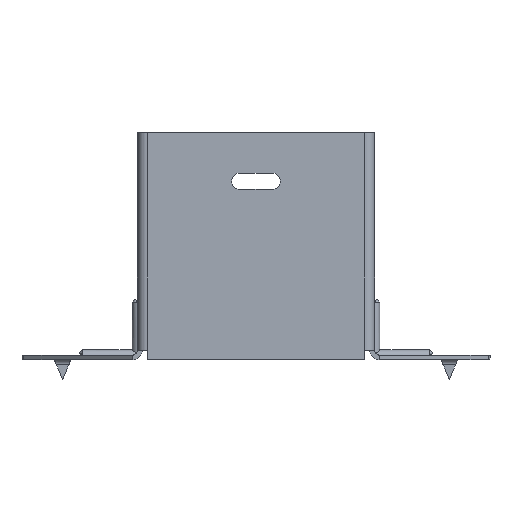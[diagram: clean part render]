
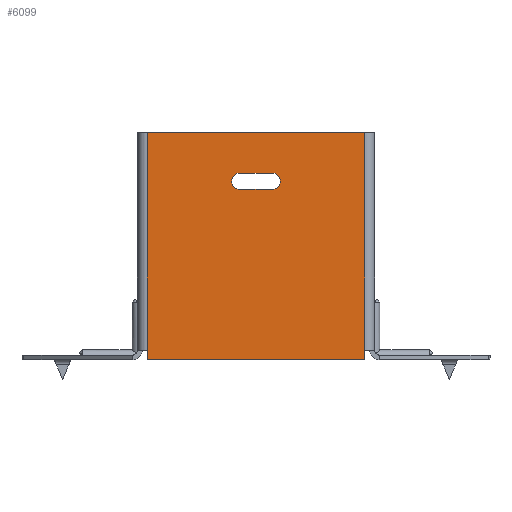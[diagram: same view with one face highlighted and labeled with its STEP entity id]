
A CAD part, front view. The second image highlights one B-rep face of the part: STEP entity #6099.
In plain terms, the highlighted planar face has unit normal (0, -1, 0).
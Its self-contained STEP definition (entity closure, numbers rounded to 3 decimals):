
#1 = ORIENTED_EDGE ( 'NONE', *, *, #2751, .T. ) ;
#233 = VECTOR ( 'NONE', #14743, 1000. ) ;
#353 = VERTEX_POINT ( 'NONE', #4707 ) ;
#406 = VECTOR ( 'NONE', #745, 1000. ) ;
#574 = VECTOR ( 'NONE', #11326, 1000. ) ;
#620 = CARTESIAN_POINT ( 'NONE',  ( -33.5, 0., 0. ) ) ;
#745 = DIRECTION ( 'NONE',  ( 0., 0., 1. ) ) ;
#852 = DIRECTION ( 'NONE',  ( 0., 1., 0. ) ) ;
#925 = EDGE_CURVE ( 'NONE', #4611, #11412, #8556, .T. ) ;
#1018 = VECTOR ( 'NONE', #6275, 1000. ) ;
#1035 = DIRECTION ( 'NONE',  ( 0., 0., 1. ) ) ;
#1061 = EDGE_LOOP ( 'NONE', ( #10458, #1, #13816, #3982, #12066, #5768 ) ) ;
#1638 = DIRECTION ( 'NONE',  ( 0., 0., -1. ) ) ;
#1768 = VERTEX_POINT ( 'NONE', #15274 ) ;
#2519 = CARTESIAN_POINT ( 'NONE',  ( -5., 0., -12.5 ) ) ;
#2751 = EDGE_CURVE ( 'NONE', #353, #9644, #10153, .T. ) ;
#2753 = FACE_OUTER_BOUND ( 'NONE', #1061, .T. ) ;
#2894 = DIRECTION ( 'NONE',  ( 0., 0., 1. ) ) ;
#3300 = CARTESIAN_POINT ( 'NONE',  ( 33.5, 0., -70. ) ) ;
#3669 = DIRECTION ( 'NONE',  ( 0., 1., 0. ) ) ;
#3723 = EDGE_CURVE ( 'NONE', #3779, #1768, #6841, .T. ) ;
#3779 = VERTEX_POINT ( 'NONE', #13704 ) ;
#3915 = LINE ( 'NONE', #9014, #5646 ) ;
#3924 = EDGE_CURVE ( 'NONE', #12801, #9644, #13015, .T. ) ;
#3963 = CARTESIAN_POINT ( 'NONE',  ( 5., 0., -17.5 ) ) ;
#3982 = ORIENTED_EDGE ( 'NONE', *, *, #5747, .T. ) ;
#4611 = VERTEX_POINT ( 'NONE', #6393 ) ;
#4707 = CARTESIAN_POINT ( 'NONE',  ( -33.5, 0., -67. ) ) ;
#5019 = AXIS2_PLACEMENT_3D ( 'NONE', #7033, #8286, #1035 ) ;
#5646 = VECTOR ( 'NONE', #2894, 1000. ) ;
#5734 = DIRECTION ( 'NONE',  ( 1., 0., 0. ) ) ;
#5747 = EDGE_CURVE ( 'NONE', #12801, #4611, #3915, .T. ) ;
#5768 = ORIENTED_EDGE ( 'NONE', *, *, #9728, .F. ) ;
#5778 = EDGE_LOOP ( 'NONE', ( #7172, #10038, #14812, #9183 ) ) ;
#6023 = CARTESIAN_POINT ( 'NONE',  ( 33.5, 0., 0. ) ) ;
#6099 = ADVANCED_FACE ( 'NONE', ( #9664, #2753 ), #8157, .F. ) ;
#6257 = CARTESIAN_POINT ( 'NONE',  ( -33.5, 0., 0. ) ) ;
#6275 = DIRECTION ( 'NONE',  ( 1., 0., 0. ) ) ;
#6393 = CARTESIAN_POINT ( 'NONE',  ( 33.5, 0., -67. ) ) ;
#6841 = CIRCLE ( 'NONE', #5019, 2.5 ) ;
#6910 = DIRECTION ( 'NONE',  ( 0., 0., 1. ) ) ;
#6959 = CARTESIAN_POINT ( 'NONE',  ( 0., 0., 0. ) ) ;
#7033 = CARTESIAN_POINT ( 'NONE',  ( -5., 0., -15. ) ) ;
#7111 = AXIS2_PLACEMENT_3D ( 'NONE', #7321, #3669, #13518 ) ;
#7172 = ORIENTED_EDGE ( 'NONE', *, *, #7197, .T. ) ;
#7197 = EDGE_CURVE ( 'NONE', #12092, #3779, #11772, .T. ) ;
#7321 = CARTESIAN_POINT ( 'NONE',  ( 5., 0., -15. ) ) ;
#7606 = CIRCLE ( 'NONE', #7111, 2.5 ) ;
#7724 = AXIS2_PLACEMENT_3D ( 'NONE', #6959, #852, #6910 ) ;
#7964 = LINE ( 'NONE', #15529, #10834 ) ;
#8157 = PLANE ( 'NONE',  #7724 ) ;
#8286 = DIRECTION ( 'NONE',  ( 0., 1., 0. ) ) ;
#8556 = LINE ( 'NONE', #12947, #406 ) ;
#8826 = VERTEX_POINT ( 'NONE', #11815 ) ;
#8911 = EDGE_CURVE ( 'NONE', #8826, #12092, #7606, .T. ) ;
#9014 = CARTESIAN_POINT ( 'NONE',  ( 33.5, 0., -70. ) ) ;
#9162 = CARTESIAN_POINT ( 'NONE',  ( -35., 0., -70. ) ) ;
#9183 = ORIENTED_EDGE ( 'NONE', *, *, #8911, .T. ) ;
#9212 = LINE ( 'NONE', #6257, #574 ) ;
#9215 = VERTEX_POINT ( 'NONE', #620 ) ;
#9644 = VERTEX_POINT ( 'NONE', #10430 ) ;
#9664 = FACE_BOUND ( 'NONE', #5778, .T. ) ;
#9728 = EDGE_CURVE ( 'NONE', #9215, #11412, #7964, .T. ) ;
#9956 = EDGE_CURVE ( 'NONE', #1768, #8826, #10632, .T. ) ;
#9968 = VECTOR ( 'NONE', #1638, 1000. ) ;
#10038 = ORIENTED_EDGE ( 'NONE', *, *, #3723, .T. ) ;
#10153 = LINE ( 'NONE', #11375, #9968 ) ;
#10312 = VECTOR ( 'NONE', #15199, 1000. ) ;
#10430 = CARTESIAN_POINT ( 'NONE',  ( -33.5, 0., -70. ) ) ;
#10458 = ORIENTED_EDGE ( 'NONE', *, *, #13400, .T. ) ;
#10632 = LINE ( 'NONE', #2519, #1018 ) ;
#10834 = VECTOR ( 'NONE', #5734, 1000. ) ;
#11326 = DIRECTION ( 'NONE',  ( 0., 0., -1. ) ) ;
#11375 = CARTESIAN_POINT ( 'NONE',  ( -33.5, 0., 0. ) ) ;
#11412 = VERTEX_POINT ( 'NONE', #6023 ) ;
#11772 = LINE ( 'NONE', #13610, #233 ) ;
#11815 = CARTESIAN_POINT ( 'NONE',  ( 5., 0., -12.5 ) ) ;
#12066 = ORIENTED_EDGE ( 'NONE', *, *, #925, .T. ) ;
#12092 = VERTEX_POINT ( 'NONE', #3963 ) ;
#12801 = VERTEX_POINT ( 'NONE', #3300 ) ;
#12947 = CARTESIAN_POINT ( 'NONE',  ( 33.5, 0., -70. ) ) ;
#13015 = LINE ( 'NONE', #9162, #10312 ) ;
#13400 = EDGE_CURVE ( 'NONE', #9215, #353, #9212, .T. ) ;
#13518 = DIRECTION ( 'NONE',  ( 0., 0., 1. ) ) ;
#13610 = CARTESIAN_POINT ( 'NONE',  ( -5., 0., -17.5 ) ) ;
#13704 = CARTESIAN_POINT ( 'NONE',  ( -5., 0., -17.5 ) ) ;
#13816 = ORIENTED_EDGE ( 'NONE', *, *, #3924, .F. ) ;
#14743 = DIRECTION ( 'NONE',  ( -1., 0., 0. ) ) ;
#14812 = ORIENTED_EDGE ( 'NONE', *, *, #9956, .T. ) ;
#15199 = DIRECTION ( 'NONE',  ( -1., 0., 0. ) ) ;
#15274 = CARTESIAN_POINT ( 'NONE',  ( -5., 0., -12.5 ) ) ;
#15529 = CARTESIAN_POINT ( 'NONE',  ( -35., 0., 0. ) ) ;
